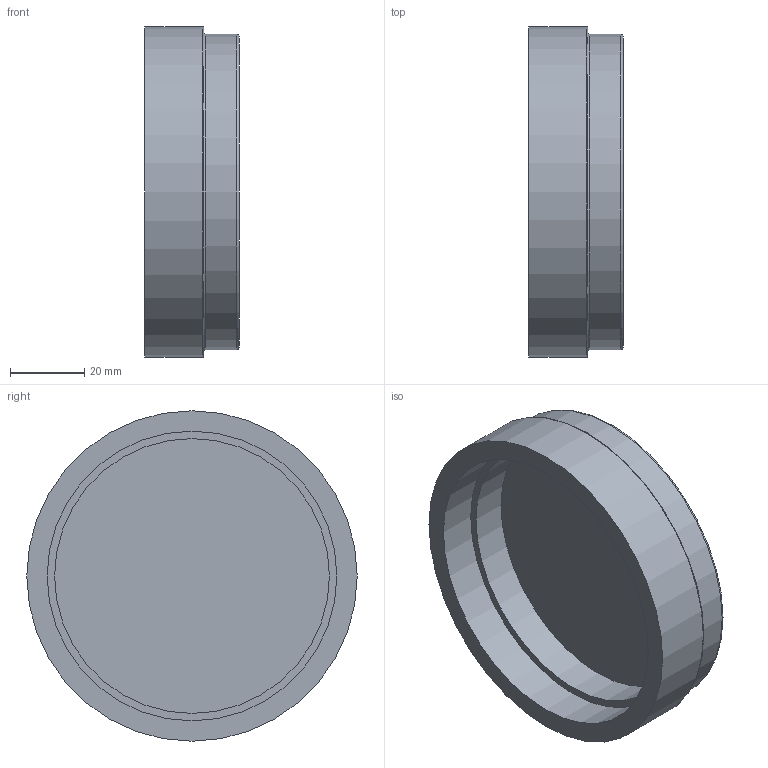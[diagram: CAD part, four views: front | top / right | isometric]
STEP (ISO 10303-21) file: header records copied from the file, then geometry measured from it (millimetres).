
FILE_DESCRIPTION(/* description */ ('VIC SS CAP No 460DX (OGS)'),/* implementation_level */ '2;1');
FILE_NAME(/* name */ 'C:\Files for Export\SS Duplex\STEP\Victaulic_SS-OGS_Cap_No 460DX (OGS)\Victaulic_SS-OGS_Cap_No 460DX (OGS)_3 (80).stp',/* time_stamp */ '2024-08-28T10:35:58+02:00',/* author */ ('CORINNE GRAY'),/* organization */ ('Victaulic'),/* preprocessor_version */ 'ST-DEVELOPER v18.1',/* originating_system */ 'Autodesk Inventor 2020',/* authorisation */ '');
FILE_SCHEMA (('AUTOMOTIVE_DESIGN { 1 0 10303 214 3 1 1 }'));
Length unit declared in the file: inch
Products named in the file (1): 460DX-03.0
Bounding box: 25.4 x 88.9 x 88.9 mm (x, y, z)
Volume: 62001.2 mm3; surface area: 23969.4 mm2
Topology: 1 solids, 1 shells, 12 faces, 32 edges, 25 vertices
Faces by surface type: plane 5, cylinder 4, torus 3
Full cylindrical faces by diameter (mm): 73.965 x1, 77.927 x1, 84.938 x1, 88.9 x1
Entity records: 467 total; most frequent: DIRECTION 86, CARTESIAN_POINT 70, ORIENTED_EDGE 64, AXIS2_PLACEMENT_3D 41, EDGE_CURVE 32, CIRCLE 28, VERTEX_POINT 25, EDGE_LOOP 15
